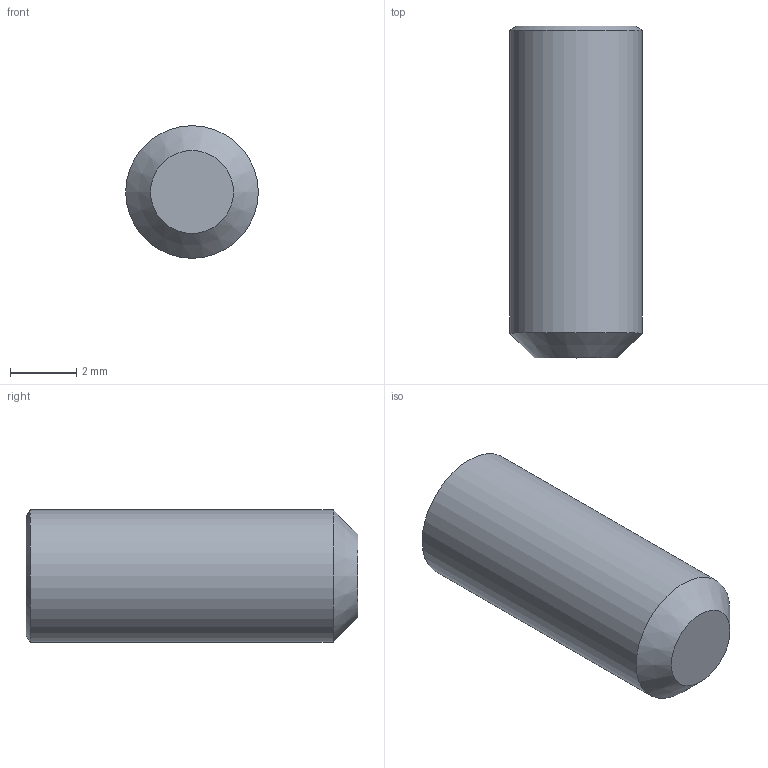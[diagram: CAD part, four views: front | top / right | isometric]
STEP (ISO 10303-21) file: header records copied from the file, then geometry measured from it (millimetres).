
FILE_DESCRIPTION(/* description */ (''),/* implementation_level */ '2;1');
FILE_NAME(/* name */ 'C:\Users\D\Documents\Inventor\各種小物\JIS\止めねじ\平先\M4\M4x10.stp',/* time_stamp */ '2022-06-23T14:24:13+09:00',/* author */ ('D'),/* organization */ (''),/* preprocessor_version */ 'ST-DEVELOPER v18',/* originating_system */ 'Autodesk Inventor 2020',/* authorisation */ '');
FILE_SCHEMA (('AUTOMOTIVE_DESIGN { 1 0 10303 214 3 1 1 }'));
Length unit declared in the file: millimetre
Products named in the file (1): M1.6x2
Bounding box: 4 x 10 x 4 mm (x, y, z)
Volume: 112.8 mm3; surface area: 161.6 mm2
Topology: 1 solids, 1 shells, 12 faces, 28 edges, 18 vertices
Faces by surface type: plane 8, cone 3, cylinder 1
Full cylindrical faces by diameter (mm): 4 x1
Entity records: 369 total; most frequent: CARTESIAN_POINT 72, ORIENTED_EDGE 54, DIRECTION 50, EDGE_CURVE 27, VERTEX_POINT 18, AXIS2_PLACEMENT_3D 17, LINE 16, VECTOR 16
